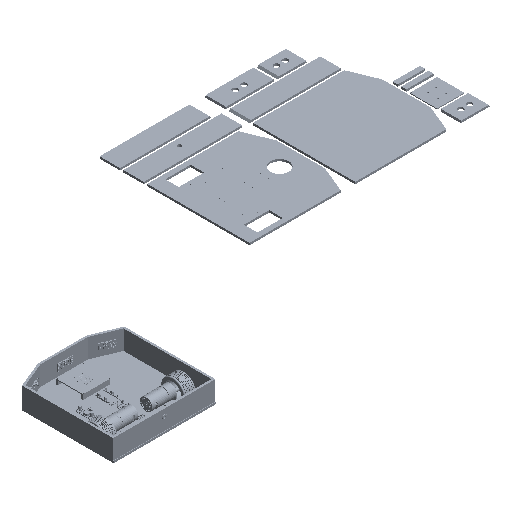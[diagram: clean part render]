
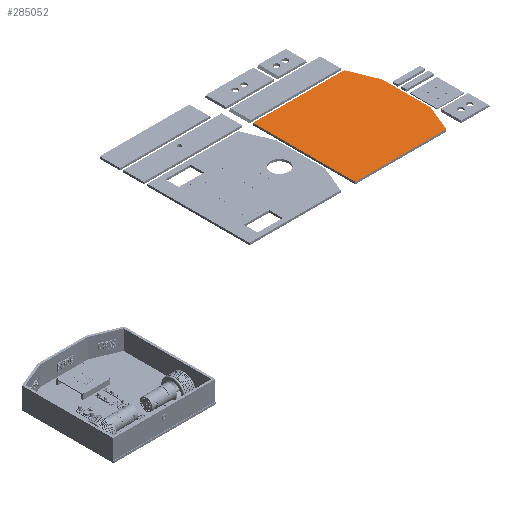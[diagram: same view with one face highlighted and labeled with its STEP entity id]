
A CAD part, isometric view. The second image highlights one B-rep face of the part: STEP entity #285052.
In plain terms, the highlighted planar face has unit normal (0, 0, 1).
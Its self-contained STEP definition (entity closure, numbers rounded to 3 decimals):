
#42787=LINE('',#546896,#69070);
#42790=LINE('',#546902,#69073);
#42793=LINE('',#546908,#69076);
#42796=LINE('',#546914,#69079);
#42799=LINE('',#546920,#69082);
#42802=LINE('',#546924,#69085);
#69070=VECTOR('',#388837,10.);
#69073=VECTOR('',#388842,10.);
#69076=VECTOR('',#388847,10.);
#69079=VECTOR('',#388852,10.);
#69082=VECTOR('',#388857,10.);
#69085=VECTOR('',#388862,10.);
#89621=FACE_OUTER_BOUND('',#106630,.T.);
#106630=EDGE_LOOP('',(#260096,#260097,#260098,#260099,#260100,#260101));
#141523=VERTEX_POINT('',#546893);
#141524=VERTEX_POINT('',#546895);
#141526=VERTEX_POINT('',#546901);
#141528=VERTEX_POINT('',#546907);
#141530=VERTEX_POINT('',#546913);
#141532=VERTEX_POINT('',#546919);
#181042=EDGE_CURVE('',#141524,#141523,#42787,.T.);
#181045=EDGE_CURVE('',#141526,#141524,#42790,.T.);
#181048=EDGE_CURVE('',#141528,#141526,#42793,.T.);
#181051=EDGE_CURVE('',#141530,#141528,#42796,.T.);
#181054=EDGE_CURVE('',#141532,#141530,#42799,.T.);
#181057=EDGE_CURVE('',#141523,#141532,#42802,.T.);
#260096=ORIENTED_EDGE('',*,*,#181057,.T.);
#260097=ORIENTED_EDGE('',*,*,#181054,.T.);
#260098=ORIENTED_EDGE('',*,*,#181051,.T.);
#260099=ORIENTED_EDGE('',*,*,#181048,.T.);
#260100=ORIENTED_EDGE('',*,*,#181045,.T.);
#260101=ORIENTED_EDGE('',*,*,#181042,.T.);
#269310=PLANE('',#312646);
#285052=ADVANCED_FACE('',(#89621),#269310,.T.);
#312646=AXIS2_PLACEMENT_3D('',#546925,#388863,#388864);
#388837=DIRECTION('',(-1.,0.,0.));
#388842=DIRECTION('',(-0.924,0.381,0.));
#388847=DIRECTION('',(0.,1.,0.));
#388852=DIRECTION('',(1.,0.,0.));
#388857=DIRECTION('',(0.,-1.,0.));
#388862=DIRECTION('',(-0.924,-0.381,0.));
#388863=DIRECTION('center_axis',(0.,0.,1.));
#388864=DIRECTION('ref_axis',(1.,0.,0.));
#546893=CARTESIAN_POINT('',(-71.076,150.,72.));
#546895=CARTESIAN_POINT('',(71.076,150.,72.));
#546896=CARTESIAN_POINT('',(35.538,150.,72.));
#546901=CARTESIAN_POINT('',(150.,117.445,72.));
#546902=CARTESIAN_POINT('',(106.605,135.345,72.));
#546907=CARTESIAN_POINT('',(150.,-150.,72.));
#546908=CARTESIAN_POINT('',(150.,-75.,72.));
#546913=CARTESIAN_POINT('',(-150.,-150.,72.));
#546914=CARTESIAN_POINT('',(-75.,-150.,72.));
#546919=CARTESIAN_POINT('',(-150.,117.445,72.));
#546920=CARTESIAN_POINT('',(-150.,58.723,72.));
#546924=CARTESIAN_POINT('',(-67.143,151.622,72.));
#546925=CARTESIAN_POINT('Origin',(0.,0.,
72.));
